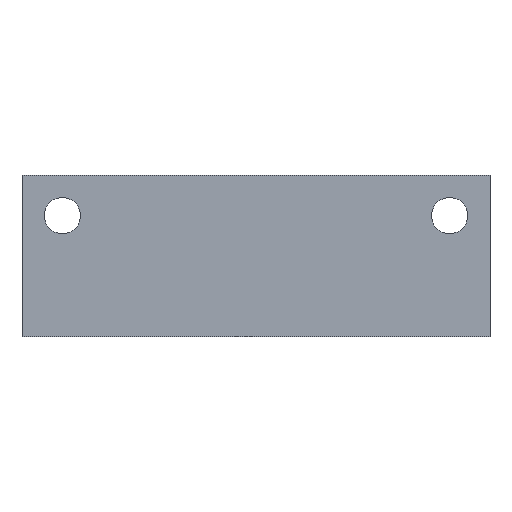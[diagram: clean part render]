
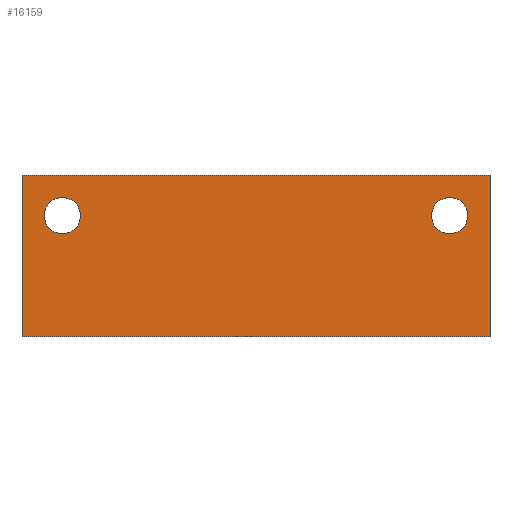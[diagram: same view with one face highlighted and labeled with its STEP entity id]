
A CAD part, front view. The second image highlights one B-rep face of the part: STEP entity #16159.
In plain terms, the highlighted planar face has unit normal (0, -1, 0).
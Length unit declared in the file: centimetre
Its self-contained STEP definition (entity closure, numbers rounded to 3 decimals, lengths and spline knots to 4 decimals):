
#823=CIRCLE('',#32495,0.225);
#920=CIRCLE('',#32889,0.225);
#1067=VERTEX_POINT('',#20423);
#1078=VERTEX_POINT('',#20448);
#1079=VERTEX_POINT('',#20450);
#1783=VERTEX_POINT('',#25984);
#1790=VERTEX_POINT('',#26003);
#1791=VERTEX_POINT('',#26008);
#2697=VECTOR('',#17382,1.);
#3396=VECTOR('',#18632,1.);
#3408=VECTOR('',#18645,1.);
#3409=VECTOR('',#18650,1.);
#4435=LINE('',#20449,#2697);
#5126=LINE('',#25983,#3396);
#5138=LINE('',#26004,#3408);
#5139=LINE('',#26009,#3409);
#6149=EDGE_CURVE('',#1067,#1067,#823,.T.);
#6162=EDGE_CURVE('',#1079,#1078,#4435,.T.);
#7246=EDGE_CURVE('',#1079,#1783,#5126,.T.);
#7258=EDGE_CURVE('',#1790,#1078,#5138,.T.);
#7259=EDGE_CURVE('',#1791,#1791,#920,.T.);
#7260=EDGE_CURVE('',#1783,#1790,#5139,.T.);
#10806=ORIENTED_EDGE('',*,*,#6149,.F.);
#10807=ORIENTED_EDGE('',*,*,#7259,.T.);
#10808=ORIENTED_EDGE('',*,*,#7258,.F.);
#10809=ORIENTED_EDGE('',*,*,#7260,.F.);
#10810=ORIENTED_EDGE('',*,*,#7246,.F.);
#10811=ORIENTED_EDGE('',*,*,#6162,.T.);
#14071=EDGE_LOOP('',(#10806));
#14072=EDGE_LOOP('',(#10807));
#14073=EDGE_LOOP('',(#10808,#10809,#10810,#10811));
#15140=FACE_BOUND('',#14071,.T.);
#15141=FACE_BOUND('',#14072,.T.);
#15142=FACE_BOUND('',#14073,.T.);
#16159=ADVANCED_FACE('',(#15140,#15141,#15142),#16961,.F.);
#16961=PLANE('',#32888);
#17366=DIRECTION('',(0.,-1.,0.));
#17367=DIRECTION('',(-0.225,0.,0.));
#17382=DIRECTION('',(0.,0.,1.));
#18632=DIRECTION('',(-1.,0.,0.));
#18645=DIRECTION('',(1.,0.,0.));
#18647=DIRECTION('',(0.,1.,0.));
#18648=DIRECTION('',(0.,1.,0.));
#18649=DIRECTION('',(0.225,0.,0.));
#18650=DIRECTION('',(0.,0.,1.));
#20422=CARTESIAN_POINT('',(2.5,0.,0.5));
#20423=CARTESIAN_POINT('',(2.725,0.,0.5));
#20448=CARTESIAN_POINT('',(3.,0.,1.));
#20449=CARTESIAN_POINT('',(3.,0.,-1.));
#20450=CARTESIAN_POINT('',(3.,0.,-1.));
#25983=CARTESIAN_POINT('',(-1.,0.,-1.));
#25984=CARTESIAN_POINT('',(-2.8,0.,-1.));
#26003=CARTESIAN_POINT('',(-2.8,0.,1.));
#26004=CARTESIAN_POINT('',(-2.8,0.,1.));
#26006=CARTESIAN_POINT('',(0.5,0.,0.));
#26007=CARTESIAN_POINT('',(-2.3,0.,0.5));
#26008=CARTESIAN_POINT('',(-2.525,0.,0.5));
#26009=CARTESIAN_POINT('',(-2.8,0.,-1.));
#32495=AXIS2_PLACEMENT_3D('',#20422,#17366,#17367);
#32888=AXIS2_PLACEMENT_3D('',#26006,#18647,$);
#32889=AXIS2_PLACEMENT_3D('',#26007,#18648,#18649);
